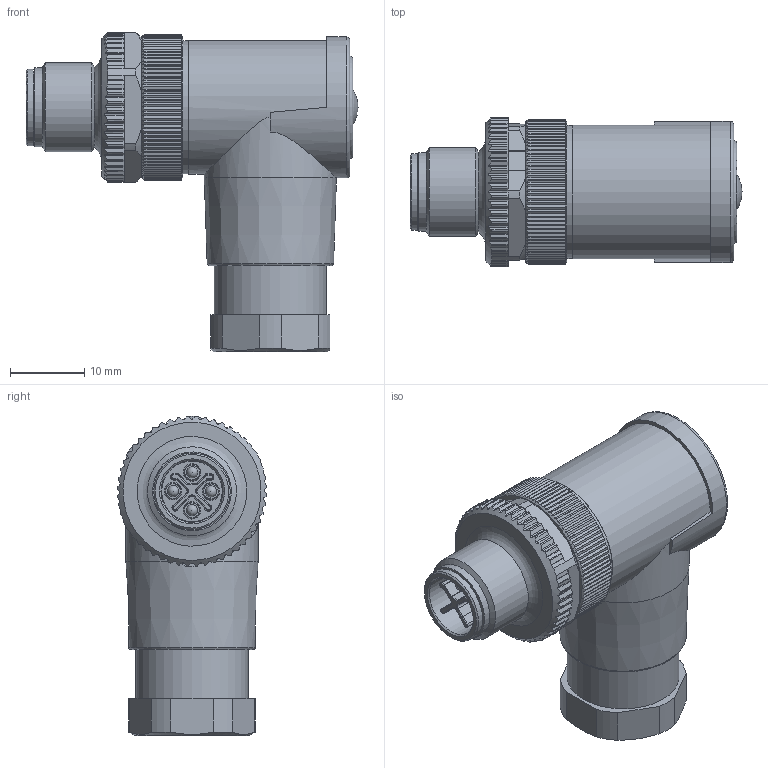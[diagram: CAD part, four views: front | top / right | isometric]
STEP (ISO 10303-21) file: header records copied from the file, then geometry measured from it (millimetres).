
FILE_DESCRIPTION(/* description */ (''),/* implementation_level */ '2;1');
FILE_NAME(/* name */ '99-0689-552-04.stp',/* time_stamp */ '2022-07-12T14:25:14+02:00',/* author */ (''),/* organization */ (''),/* preprocessor_version */ 'ST-DEVELOPER v16',/* originating_system */ 'SIEMENS PLM Software NX 11.0',/* authorisation */ '');
FILE_SCHEMA (('AUTOMOTIVE_DESIGN { 1 0 10303 214 3 1 1 1 }'));
Length unit declared in the file: millimetre
Products named in the file (1): pmay1AF0CE33wp8i
Bounding box: 44.7 x 20.17 x 43 mm (x, y, z)
Volume: 15114.5 mm3; surface area: 5210.8 mm2
Topology: 1 solids, 1 shells, 713 faces, 1984 edges, 1291 vertices
Faces by surface type: plane 374, cylinder 279, torus 34, cone 14, sphere 12
Full cylindrical faces by diameter (mm): 1.5 x4, 2.17 x4, 8.35 x1, 9.4 x1, 9.5 x1, 10.3 x1, 10.6 x1, 12 x1, 15.1 x1, 15.8 x1, 17.8 x1, 17.908 x1, 18 x1, 19 x2
Entity records: 24090 total; most frequent: CARTESIAN_POINT 6500, ORIENTED_EDGE 3828, DIRECTION 3440, EDGE_CURVE 1914, VERTEX_POINT 1268, AXIS2_PLACEMENT_3D 1232, LINE 976, VECTOR 976
